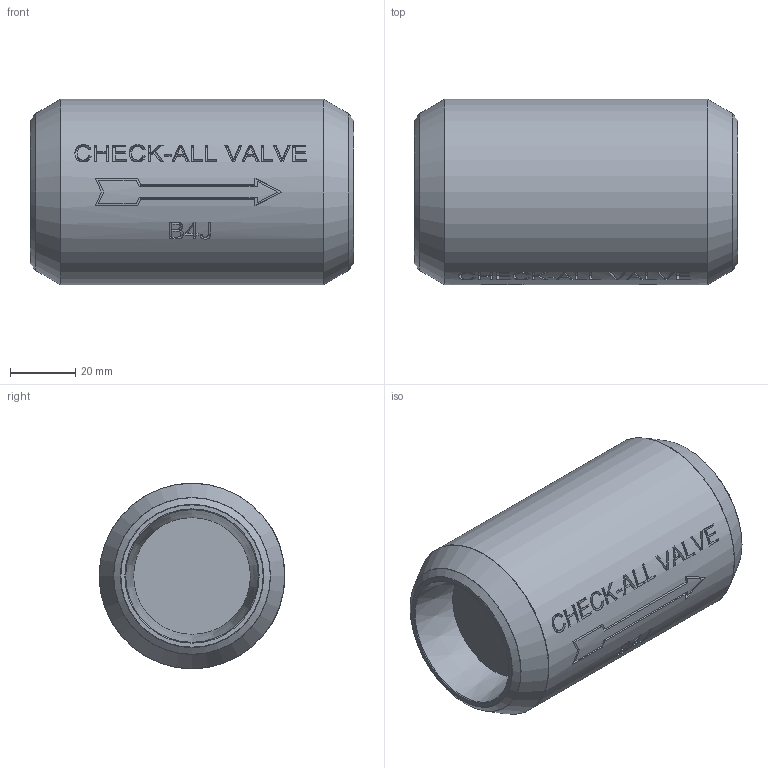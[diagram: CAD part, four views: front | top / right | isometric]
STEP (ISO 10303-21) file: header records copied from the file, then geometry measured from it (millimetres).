
FILE_DESCRIPTION( ( 'Unknown' ), '1' );
FILE_NAME( 'Y:/ENGR/Catalog & Web/3D Models for Web/B4/STEP/B4J.stp', 'Unknown', ( 'Unknown' ), ( 'Unknown' ), 'PSStep 14.0', 'Unknown', ' ' );
FILE_SCHEMA( ( 'AUTOMOTIVE_DESIGN { 1 0 10303 214 1 1 1 1 }' ) );
Length unit declared in the file: inch
Products named in the file (1): 1
Bounding box: 99.49 x 57.15 x 57.15 mm (x, y, z)
Volume: 211424.1 mm3; surface area: 25486.3 mm2
Topology: 1 solids, 1 shells, 206 faces, 526 edges, 348 vertices
Faces by surface type: plane 113, bspline 54, cylinder 26, torus 8, cone 5
Full cylindrical faces by diameter (mm): 40.894 x1, 57.15 x1
Entity records: 10966 total; most frequent: CARTESIAN_POINT 5507, ORIENTED_EDGE 1014, EDGE_CURVE 507, B_SPLINE_CURVE_WITH_KNOTS 489, VERTEX_POINT 344, DIRECTION 342, EDGE_LOOP 247, FACE_OUTER_BOUND 216
